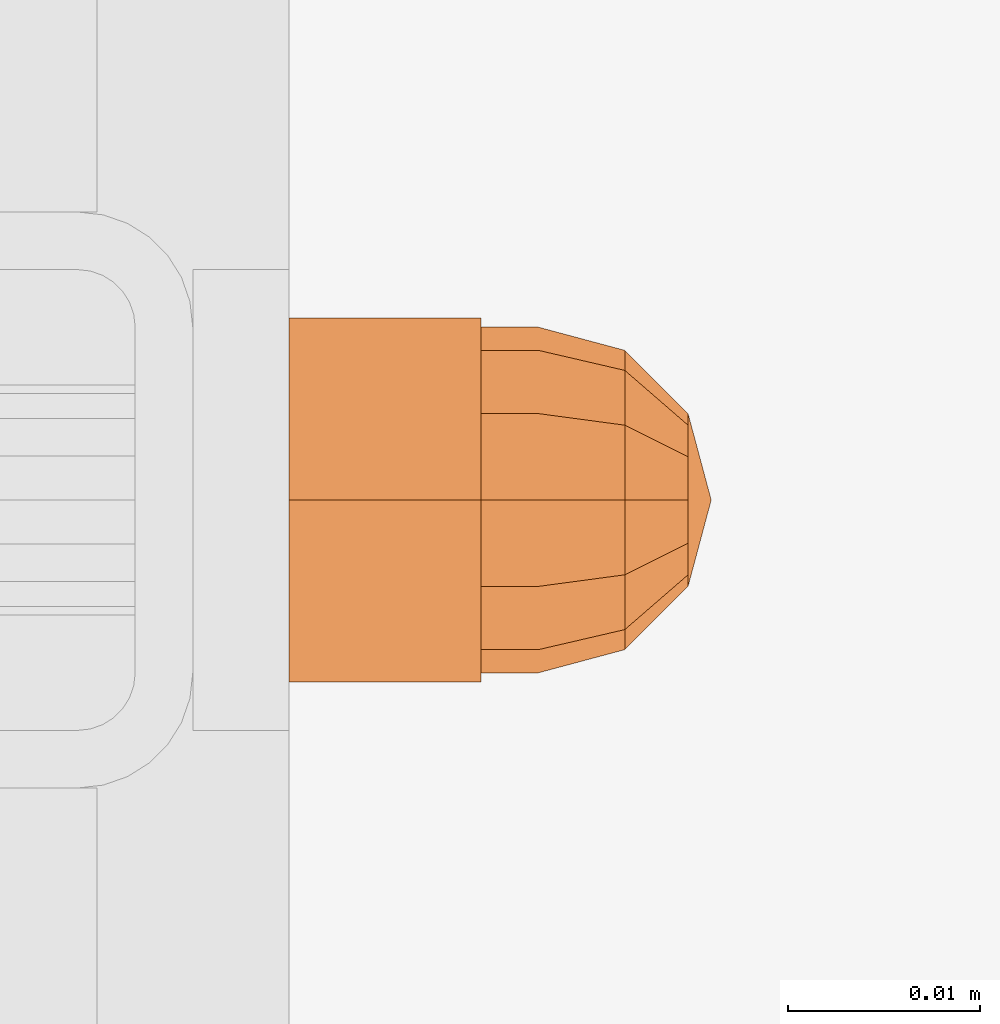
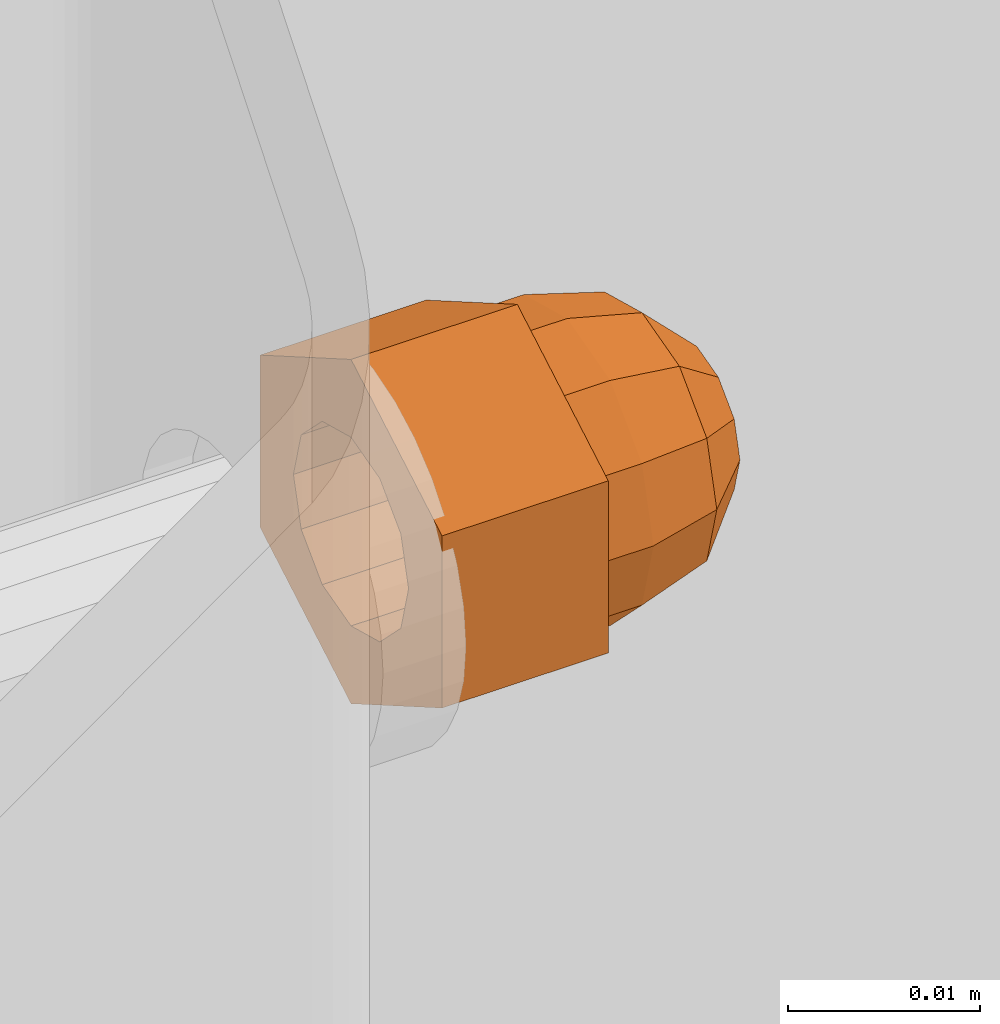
# One storey, part 160 of 162: 1 proxy.
"""IFC2X3 building model written with IfcOpenShell, lengths in millimetres."""

import ifcopenshell
import ifcopenshell.guid

model = None  # the IFC model being written
_history = None  # IfcOwnerHistory: only IFC2X3 demands one
_inside = {}  # id of a spatial element -> (the spatial element, [elements in it])
_under = {}  # id of a project, library or spatial element -> (it, [spatial elements below it])
_declared = {}  # id of a project -> (the project, [libraries it declares])
_typed = {}  # id of a type object -> (the type object, [elements of that type])
_made_of = {}  # id of a material, layer set ... -> (it, [elements and type objects made of it])


def new_model(schema):
    """Start an empty IFC model of exactly this schema.

    Asked for "IFC4X3", IfcOpenShell would pick the latest addendum, in which some entities
    have other attributes; the version numbers below select the first issue.
    IFC2X3 requires an IfcOwnerHistory on every rooted entity: one is made here for all.
    """
    global model, _history
    if schema == "IFC4X3":
        model = ifcopenshell.file(schema_version=(4, 3, 0, 0))
    else:
        model = ifcopenshell.file(schema=schema)
    _inside.clear()
    _under.clear()
    _declared.clear()
    _typed.clear()
    _made_of.clear()
    _history = None
    if model.schema == "IFC2X3":
        org = make("IfcOrganization", Name="unknown")
        user = make(
            "IfcPersonAndOrganization",
            ThePerson=make("IfcPerson", FamilyName="unknown"),
            TheOrganization=org,
        )
        app = make(
            "IfcApplication",
            ApplicationDeveloper=org,
            Version="unknown",
            ApplicationFullName="unknown",
            ApplicationIdentifier="unknown",
        )
        _history = make(
            "IfcOwnerHistory",
            OwningUser=user,
            OwningApplication=app,
            ChangeAction="ADDED",
            CreationDate=0,
        )
    return model


def make(cls, **values):
    """One entity of the class cls with the attributes given. An attribute that is None is left unset."""
    return model.create_entity(
        cls, **{name: value for name, value in values.items() if value is not None}
    )


def entity(cls, *values):
    """Any entity or typed value of the class cls, its attributes in the order of the schema. None: left unset."""
    e = model.create_entity(cls)
    for i, value in enumerate(values):
        if value is not None:
            e[i] = value
    return e


def rooted(cls, **values):
    """An entity with a GlobalId (a new one), such as an element, a storey or a relation."""
    return make(cls, GlobalId=ifcopenshell.guid.new(), OwnerHistory=_history, **values)


def si_unit(unit_type, name, prefix=None):
    """IfcSIUnit, for example si_unit("LENGTHUNIT", "METRE", prefix="MILLI")."""
    return make("IfcSIUnit", UnitType=unit_type, Prefix=prefix, Name=name)


def converted_unit(unit_type, name, factor, base, dimensions=None, offset=None):
    """IfcConversionBasedUnit, such as the inch: factor (a typed value) times the base unit."""
    return make(
        "IfcConversionBasedUnit"
        if offset is None
        else "IfcConversionBasedUnitWithOffset",
        ConversionOffset=offset,
        Dimensions=None
        if dimensions is None
        else entity("IfcDimensionalExponents", *dimensions),
        UnitType=unit_type,
        Name=name,
        ConversionFactor=make(
            "IfcMeasureWithUnit", ValueComponent=factor, UnitComponent=base
        ),
    )


def assignment(units):
    """IfcUnitAssignment: the units of a project."""
    return None if units is None else make("IfcUnitAssignment", Units=units)


def point(xyz):
    """IfcCartesianPoint."""
    return None if xyz is None else make("IfcCartesianPoint", Coordinates=xyz)


def direction(xyz):
    """IfcDirection."""
    return None if xyz is None else make("IfcDirection", DirectionRatios=xyz)


def frame(location, z_axis=None, x_axis=None):
    """IfcAxis2Placement3D, a coordinate frame: its origin and axes. An axis left out is left unset."""
    return make(
        "IfcAxis2Placement3D",
        Location=point(location),
        Axis=direction(z_axis),
        RefDirection=direction(x_axis),
    )


def origin_with_axes():
    """The frame at (0, 0, 0) with the z axis (0, 0, 1) and the x axis (1, 0, 0) written out."""
    return frame((0.0, 0.0, 0.0), z_axis=(0.0, 0.0, 1.0), x_axis=(1.0, 0.0, 0.0))


def place(relative_to, where):
    """IfcLocalPlacement: puts the frame where relative to a parent placement (None: the world)."""
    return make(
        "IfcLocalPlacement", PlacementRelTo=relative_to, RelativePlacement=where
    )


def context(
    kind, dimensions, precision=None, world=None, true_north=None, identifier=None
):
    """IfcGeometricRepresentationContext, for example the 3D "Model" context."""
    return make(
        "IfcGeometricRepresentationContext",
        ContextIdentifier=identifier,
        ContextType=kind,
        CoordinateSpaceDimension=dimensions,
        Precision=precision,
        WorldCoordinateSystem=world,
        TrueNorth=true_north,
    )


def project(units=None, contexts=None):
    """IfcProject with its units and contexts."""
    return rooted(
        "IfcProject",
        Name="project",
        RepresentationContexts=contexts,
        UnitsInContext=assignment(units),
    )


def spatial(cls, under=None, at=None, **own):
    """A site, building, storey or space (cls), placed at a placement, below another one or the project."""
    s = rooted(cls, ObjectPlacement=at, **own)
    if under is not None:
        _under.setdefault(under.id(), (under, []))[1].append(s)
    return s


def faces_of(points, faces, orient=None, outer=None):
    """IfcFace entities. A face is a list of loops; a loop is a list of indices into points, from 0.

    orient and outer hold one flag for each loop. By default every Orientation is true, the
    first loop of a face is its IfcFaceOuterBound and the others are IfcFaceBound.
    """
    made = []
    for i, loops in enumerate(faces):
        bounds = []
        for j, loop in enumerate(loops):
            is_outer = j == 0 if outer is None else outer[i][j]
            bounds.append(
                make(
                    "IfcFaceOuterBound" if is_outer else "IfcFaceBound",
                    Bound=make("IfcPolyLoop", Polygon=[points[k] for k in loop]),
                    Orientation=True if orient is None else orient[i][j],
                )
            )
        made.append(make("IfcFace", Bounds=bounds))
    return made


def faceted_brep(points, faces, orient=None, outer=None, voids=None):
    """IfcFacetedBrep: a solid bounded by flat faces; with voids (closed shells), ...WithVoids."""
    shared = [point(p) for p in points]
    hull = make("IfcClosedShell", CfsFaces=faces_of(shared, faces, orient, outer))
    if voids is None:
        return make("IfcFacetedBrep", Outer=hull)
    return make(
        "IfcFacetedBrepWithVoids",
        Outer=hull,
        Voids=[
            make(cls, CfsFaces=faces_of(shared, fs, o, b)) for cls, fs, o, b in voids
        ],
    )


def shape(context_of_items, identifier, shape_type, items):
    """IfcShapeRepresentation: the items that make up one representation, for example the "Body"."""
    return make(
        "IfcShapeRepresentation",
        ContextOfItems=context_of_items,
        RepresentationIdentifier=identifier,
        RepresentationType=shape_type,
        Items=items,
    )


def material(Name=None, Category=None):
    """IfcMaterial."""
    return make("IfcMaterial", Name=Name, Category=Category)


def made_of(thing, what):
    """Note that an element or type object is made of a material, layer set ...; save() writes the relation."""
    if what is not None:
        _made_of.setdefault(what.id(), (what, []))[1].append(thing)
    return thing


def element(
    cls,
    number,
    at=None,
    inside=None,
    cuts=None,
    type_object=None,
    material=None,
    context=None,
    identifier="Body",
    shape_type=None,
    held_by="IfcProductDefinitionShape",
    body=None,
    shapes=None,
    **own,
):
    """One element of the class cls, such as IfcWall. Its Tag is "e" and its number.

    at: its placement. inside: the storey or other place that contains it. cuts: it is an
    opening in that element (IfcRelVoidsElement). A single representation is given by context,
    identifier, shape_type and body (its items); several are given by shapes. held_by: the class
    of the entity that holds the representations. save() writes the other relations.
    """
    e = rooted(cls, Tag="e%d" % number, ObjectPlacement=at, **own)
    if body is not None:
        shapes = [shape(context, identifier, shape_type, body)]
    if shapes is not None:
        e.Representation = make(held_by, Representations=shapes)
    if inside is not None:
        _inside.setdefault(inside.id(), (inside, []))[1].append(e)
    if cuts is not None:
        rooted(
            "IfcRelVoidsElement", RelatingBuildingElement=cuts, RelatedOpeningElement=e
        )
    if type_object is not None:
        _typed.setdefault(type_object.id(), (type_object, []))[1].append(e)
    return made_of(e, material)


def aggregate(whole, parts):
    """IfcRelAggregates: a whole, such as a stair, and the parts it consists of."""
    return rooted("IfcRelAggregates", RelatingObject=whole, RelatedObjects=parts)


def save(model, path):
    """Write the relations noted so far, then the file.

    IfcRelAggregates (storeys below a building ...), IfcRelContainedInSpatialStructure (elements
    in a storey), IfcRelDefinesByType, IfcRelAssociatesMaterial and IfcRelDeclares: one each for
    every whole, place, type object, material and project.
    """
    for whole, parts in _under.values():
        aggregate(whole, parts)
    for where, things in _inside.values():
        rooted(
            "IfcRelContainedInSpatialStructure",
            RelatedElements=things,
            RelatingStructure=where,
        )
    for kind, things in _typed.values():
        rooted("IfcRelDefinesByType", RelatedObjects=things, RelatingType=kind)
    for what, things in _made_of.values():
        rooted("IfcRelAssociatesMaterial", RelatedObjects=things, RelatingMaterial=what)
    for by, libraries in _declared.values():
        rooted("IfcRelDeclares", RelatingContext=by, RelatedDefinitions=libraries)
    model.write(path)


model = new_model("IFC2X3")

# Units and contexts
model_context = context("Model", 3, precision=1e-09, world=origin_with_axes())
ifc_project = project(units=[si_unit("LENGTHUNIT", "METRE", prefix="MILLI"), si_unit("AREAUNIT", "SQUARE_METRE"), si_unit("VOLUMEUNIT", "CUBIC_METRE"), converted_unit("PLANEANGLEUNIT", "DEGREE", entity("IfcPlaneAngleMeasure", 0.01745329), si_unit("PLANEANGLEUNIT", "RADIAN"), dimensions=[0, 0, 0, 0, 0, 0, 0])], contexts=[model_context])

# Site, building, storey
site_placement = place(None, origin_with_axes())
site = spatial("IfcSite", under=ifc_project, at=site_placement, Name="Hermannstra?e 1a, 60318 Frankfurt", CompositionType="ELEMENT")
building_placement = place(site_placement, origin_with_axes())
building = spatial("IfcBuilding", under=site, at=building_placement, Name="Struktur 1", CompositionType="ELEMENT")
storey_placement = place(building_placement, origin_with_axes())
storey = spatial("IfcBuildingStorey", under=building, at=storey_placement, Name="Default Storey", CompositionType="ELEMENT", Elevation=0.0)

# Proxy
ifc_material = material(Name="Kein")
proxy_placement = place(None, origin_with_axes())
element("IfcBuildingElementProxy", 1, at=proxy_placement, inside=storey, material=ifc_material, ObjectType="-", context=model_context, shape_type="Brep", body=[
    faceted_brep([(5873.30936482, 1604.609373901, 15176.999), (5883.30936482, 1604.609373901, 15176.999), (5883.30936482, 1605.413221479, 15173.999), (5873.30936482, 1605.413221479, 15173.999), (5883.30936482, 1607.609373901, 15171.802847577), (5873.30936482, 1607.609373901, 15171.802847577), (5873.30936482, 1605.413221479, 15179.999), (5883.30936482, 1605.413221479, 15179.999), (5873.30936482, 1601.129504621, 15182.472205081), (5873.30936482, 1610.609373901, 15187.945410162), (5873.30936482, 1620.089243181, 15182.472205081), (5873.30936482, 1620.089243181, 15171.525794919), (5873.30936482, 1610.609373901, 15166.052589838), (5873.30936482, 1601.129504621, 15171.525794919), (5873.30936482, 1607.609373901, 15182.195152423), (5873.30936482, 1610.609373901, 15170.999), (5873.30936482, 1613.609373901, 15171.802847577), (5873.30936482, 1615.805526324, 15173.999), (5873.30936482, 1616.609373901, 15176.999), (5873.30936482, 1615.805526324, 15179.999), (5873.30936482, 1613.609373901, 15182.195152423), (5873.30936482, 1610.609373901, 15182.999), (5883.30936482, 1610.609373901, 15187.945410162), (5883.30936482, 1601.129504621, 15182.472205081), (5883.30936482, 1601.129504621, 15171.525794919), (5883.30936482, 1610.609373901, 15166.052589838), (5883.30936482, 1620.089243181, 15171.525794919), (5883.30936482, 1620.089243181, 15182.472205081), (5883.30936482, 1607.609373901, 15182.195152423), (5883.30936482, 1610.609373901, 15182.999), (5883.30936482, 1613.609373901, 15182.195152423), (5883.30936482, 1615.805526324, 15179.999), (5883.30936482, 1616.609373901, 15176.999), (5883.30936482, 1615.805526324, 15173.999), (5883.30936482, 1613.609373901, 15171.802847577), (5883.30936482, 1610.609373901, 15170.999)], [[[0, 1, 2, 3]], [[3, 2, 4, 5]], [[1, 0, 6, 7]], [[8, 9, 10, 11, 12, 13], [14, 6, 0, 3, 5, 15, 16, 17, 18, 19, 20, 21]], [[22, 23, 24, 25, 26, 27], [1, 7, 28, 29, 30, 31, 32, 33, 34, 35, 4, 2]], [[7, 6, 14, 28]], [[24, 23, 8, 13]], [[5, 4, 35, 15]], [[13, 12, 25, 24]], [[28, 14, 21, 29]], [[23, 22, 9, 8]], [[15, 35, 34, 16]], [[12, 11, 26, 25]], [[29, 21, 20, 30]], [[22, 27, 10, 9]], [[16, 34, 33, 17]], [[27, 26, 11, 10]], [[30, 20, 19, 31]], [[17, 33, 32, 18]], [[31, 19, 18, 32]]]),
    faceted_brep([(5883.30936482, 1610.609373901, 15185.999), (5886.30936482, 1610.609373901, 15185.999), (5886.30936482, 1615.109373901, 15184.793228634), (5883.30936482, 1615.109373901, 15184.793228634), (5883.30936482, 1606.109373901, 15184.793228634), (5886.30936482, 1606.109373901, 15184.793228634), (5886.30936482, 1602.815145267, 15172.499), (5886.30936482, 1606.109373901, 15169.204771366), (5886.30936482, 1610.609373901, 15167.999), (5886.30936482, 1615.109373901, 15169.204771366), (5886.30936482, 1618.403602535, 15172.499), (5886.30936482, 1619.609373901, 15176.999), (5886.30936482, 1618.403602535, 15181.499), (5886.30936482, 1602.815145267, 15181.499), (5886.30936482, 1601.609373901, 15176.999), (5883.30936482, 1618.403602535, 15172.499), (5883.30936482, 1615.109373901, 15169.204771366), (5883.30936482, 1610.609373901, 15167.999), (5883.30936482, 1606.109373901, 15169.204771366), (5883.30936482, 1602.815145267, 15172.499), (5883.30936482, 1601.609373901, 15176.999), (5883.30936482, 1602.815145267, 15181.499), (5883.30936482, 1618.403602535, 15181.499), (5883.30936482, 1619.609373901, 15176.999)], [[[0, 1, 2, 3]], [[1, 0, 4, 5]], [[6, 7, 8, 9, 10, 11, 12, 2, 1, 5, 13, 14]], [[15, 16, 17, 18, 19, 20, 21, 4, 0, 3, 22, 23]], [[3, 2, 12, 22]], [[5, 4, 21, 13]], [[22, 12, 11, 23]], [[13, 21, 20, 14]], [[7, 18, 17, 8]], [[19, 6, 14, 20]], [[18, 7, 6, 19]], [[23, 11, 10, 15]], [[8, 17, 16, 9]], [[15, 10, 9, 16]]]),
    faceted_brep([(5886.30936482, 1602.815145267, 15181.499), (5890.80936482, 1603.859373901, 15180.896114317), (5890.80936482, 1606.712259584, 15183.749), (5886.30936482, 1606.109373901, 15184.793228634), (5886.30936482, 1618.403602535, 15172.499), (5886.30936482, 1615.109373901, 15169.204771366), (5886.30936482, 1610.609373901, 15167.999), (5886.30936482, 1606.109373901, 15169.204771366), (5886.30936482, 1602.815145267, 15172.499), (5886.30936482, 1601.609373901, 15176.999), (5886.30936482, 1610.609373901, 15185.999), (5886.30936482, 1615.109373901, 15184.793228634), (5886.30936482, 1618.403602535, 15181.499), (5886.30936482, 1619.609373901, 15176.999), (5890.80936482, 1610.609373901, 15184.793228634), (5890.80936482, 1602.815145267, 15176.999), (5894.103593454, 1606.109373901, 15176.999), (5894.103593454, 1606.712259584, 15179.249), (5890.80936482, 1614.506488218, 15183.749), (5894.103593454, 1608.359373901, 15180.896114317), (5890.80936482, 1603.859373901, 15173.101885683), (5894.103593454, 1606.712259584, 15174.749), (5894.103593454, 1610.609373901, 15181.499), (5895.30936482, 1610.609373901, 15176.999), (5890.80936482, 1606.712259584, 15170.249), (5894.103593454, 1608.359373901, 15173.101885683), (5890.80936482, 1610.609373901, 15169.204771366), (5890.80936482, 1617.359373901, 15180.896114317), (5894.103593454, 1612.859373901, 15180.896114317), (5894.103593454, 1610.609373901, 15172.499), (5890.80936482, 1614.506488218, 15170.249), (5894.103593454, 1612.859373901, 15173.101885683), (5890.80936482, 1618.403602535, 15176.999), (5894.103593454, 1614.506488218, 15179.249), (5890.80936482, 1617.359373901, 15173.101885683), (5894.103593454, 1614.506488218, 15174.749), (5894.103593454, 1615.109373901, 15176.999)], [[[0, 1, 2, 3]], [[4, 5, 6, 7, 8, 9, 0, 3, 10, 11, 12, 13]], [[3, 2, 14, 10]], [[15, 16, 17, 1]], [[1, 0, 9, 15]], [[10, 14, 18, 11]], [[1, 17, 19, 2]], [[16, 15, 20, 21]], [[2, 19, 22, 14]], [[23, 17, 16]], [[24, 25, 21, 20]], [[23, 16, 21]], [[24, 7, 6, 26]], [[20, 8, 7, 24]], [[15, 9, 8, 20]], [[11, 18, 27, 12]], [[14, 22, 28, 18]], [[23, 19, 17]], [[26, 29, 25, 24]], [[23, 21, 25]], [[23, 22, 19]], [[26, 6, 5, 30]], [[29, 26, 30, 31]], [[23, 25, 29]], [[12, 27, 32, 13]], [[18, 28, 33, 27]], [[23, 28, 22]], [[23, 29, 31]], [[23, 33, 28]], [[30, 5, 4, 34]], [[31, 30, 34, 35]], [[23, 31, 35]], [[13, 32, 34, 4]], [[27, 33, 36, 32]], [[23, 36, 33]], [[23, 35, 36]], [[35, 34, 32, 36]]]),
])

save(model, "model.ifc")
